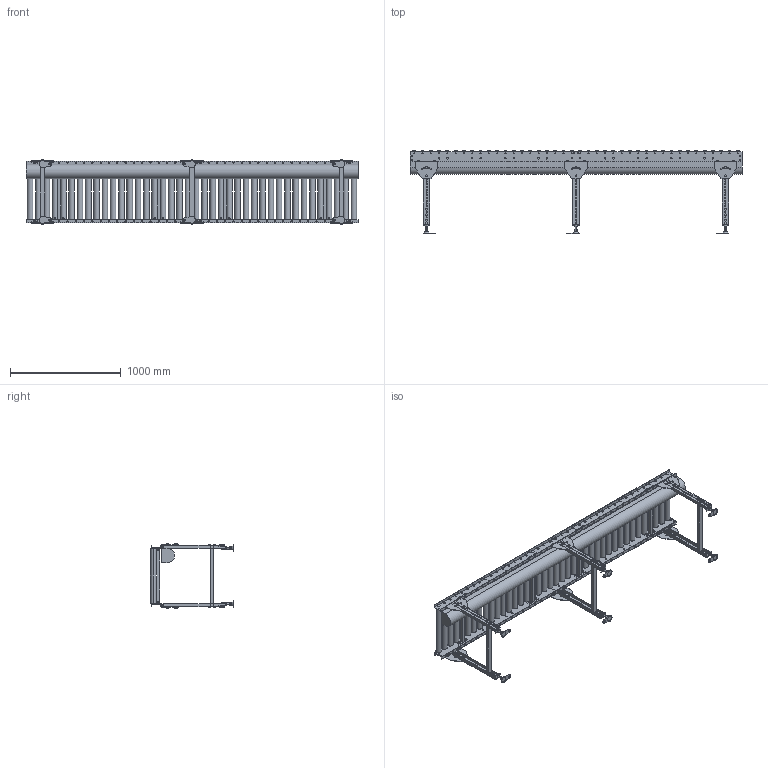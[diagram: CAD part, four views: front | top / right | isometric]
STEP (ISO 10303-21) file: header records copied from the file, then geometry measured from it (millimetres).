
FILE_DESCRIPTION (( 'STEP AP214' ), '1' );
FILE_NAME ('MCD50-ストレート-75P-500.STEP', '2022-08-01T02:03:50', ( '' ), ( '' ), 'SwSTEP 2.0', 'SolidWorks 2017', '' );
FILE_SCHEMA (( 'AUTOMOTIVE_DESIGN' ));
Length unit declared in the file: millimetre
Products named in the file (1): MCD50-ストレート-75P-500
Bounding box: 3000 x 750 x 584.4 mm (x, y, z)
Volume: 88992286.8 mm3; surface area: 8064858.1 mm2
Topology: 28 solids, 74 shells, 4058 faces, 11056 edges, 7024 vertices
Faces by surface type: plane 2573, cylinder 1473, cone 12
Entity records: 175013 total; most frequent: DIRECTION 23112, CARTESIAN_POINT 22535, ORIENTED_EDGE 22112, EDGE_CURVE 11056, AXIS2_PLACEMENT_3D 8009, LINE 7094, VECTOR 7094, VERTEX_POINT 7024
